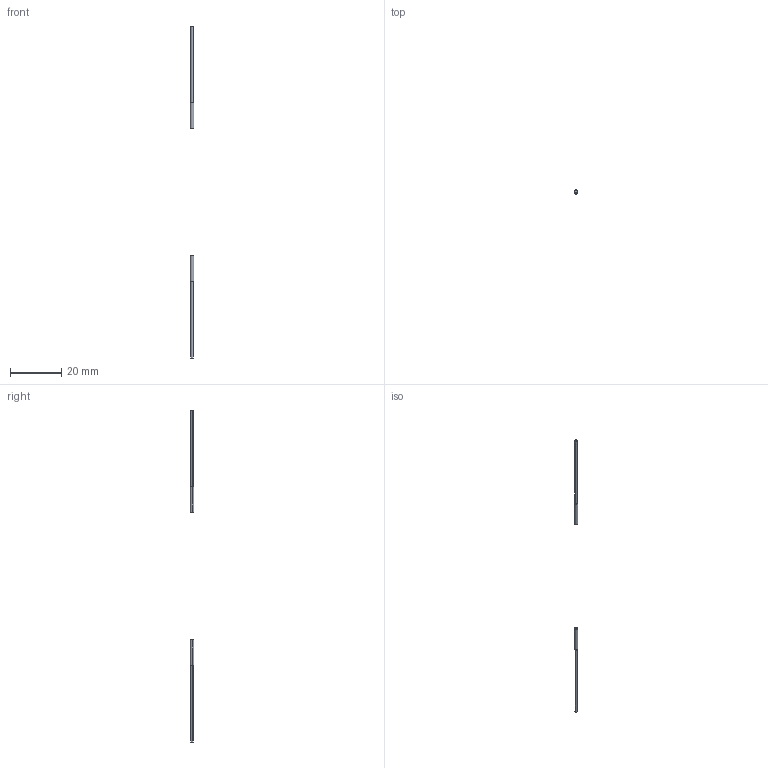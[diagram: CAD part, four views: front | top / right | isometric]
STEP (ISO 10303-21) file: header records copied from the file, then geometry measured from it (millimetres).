
FILE_DESCRIPTION (( 'STEP AP203' ), '1' );
FILE_NAME ('FQ-59.STEP', '2020-11-03T07:03:37', ( '' ), ( '' ), 'SwSTEP 2.0', 'SolidWorks 2020', '' );
FILE_SCHEMA (( 'CONFIG_CONTROL_DESIGN' ));
Length unit declared in the file: millimetre
Products named in the file (3): FQ-59_R; FQ-59; FQ-59_T
Assembly tree (2 placements, depth 2):
  FQ-59
    FQ-59_T
    FQ-59_R
Bounding box: 1.5 x 1.5 x 130 mm (x, y, z)
Volume: 82.5 mm3; surface area: 291.2 mm2
Topology: 2 solids, 2 shells, 62 faces, 120 edges, 80 vertices
Faces by surface type: cylinder 40, plane 22
Entity records: 1929 total; most frequent: DIRECTION 334, CARTESIAN_POINT 267, ORIENTED_EDGE 240, AXIS2_PLACEMENT_3D 147, EDGE_CURVE 120, VERTEX_POINT 80, EDGE_LOOP 80, CIRCLE 80
